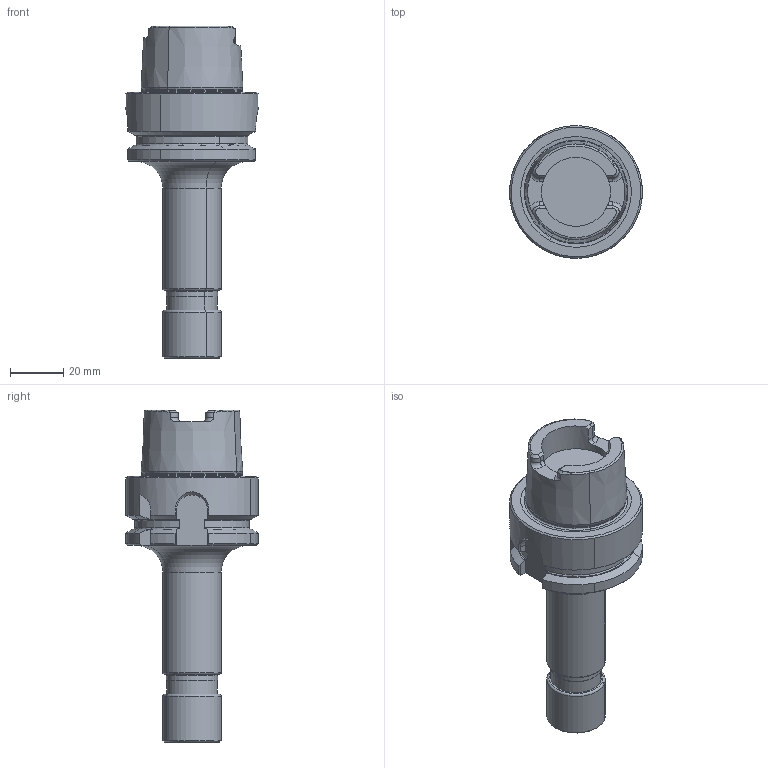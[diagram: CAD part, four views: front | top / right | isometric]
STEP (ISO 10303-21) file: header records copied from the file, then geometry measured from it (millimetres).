
FILE_DESCRIPTION(('CATIA V5 STEP'),'2;1');
FILE_NAME('I:\isr\design\admin8\users\edward_s\4561000_L.stp','2012-05-02T05:01:57+00:00',('none'),('none'),'CATIA Version 5 Release 19 SP 7 (IN-10)','CATIA V5 STEP AP214','none');
FILE_SCHEMA(('AUTOMOTIVE_DESIGN { 1 0 10303 214 1 1 1 1 }'));
Length unit declared in the file: millimetre
Products named in the file (1): 60954714_0 Holder-Tool HSK A 50 ER16X100 M
Bounding box: 50 x 50 x 125 mm (x, y, z)
Volume: 96557.1 mm3; surface area: 16978 mm2
Topology: 1 solids, 1 shells, 153 faces, 395 edges, 249 vertices
Faces by surface type: plane 56, cylinder 38, cone 31, torus 28
Entity records: 4711 total; most frequent: CARTESIAN_POINT 1397, ORIENTED_EDGE 790, DIRECTION 494, EDGE_CURVE 395, AXIS2_PLACEMENT_3D 259, VERTEX_POINT 249, CIRCLE 168, EDGE_LOOP 158
